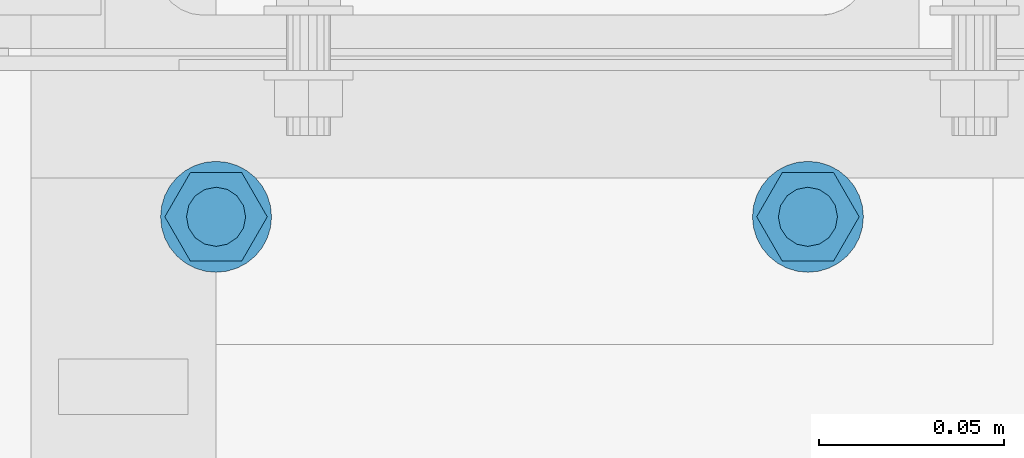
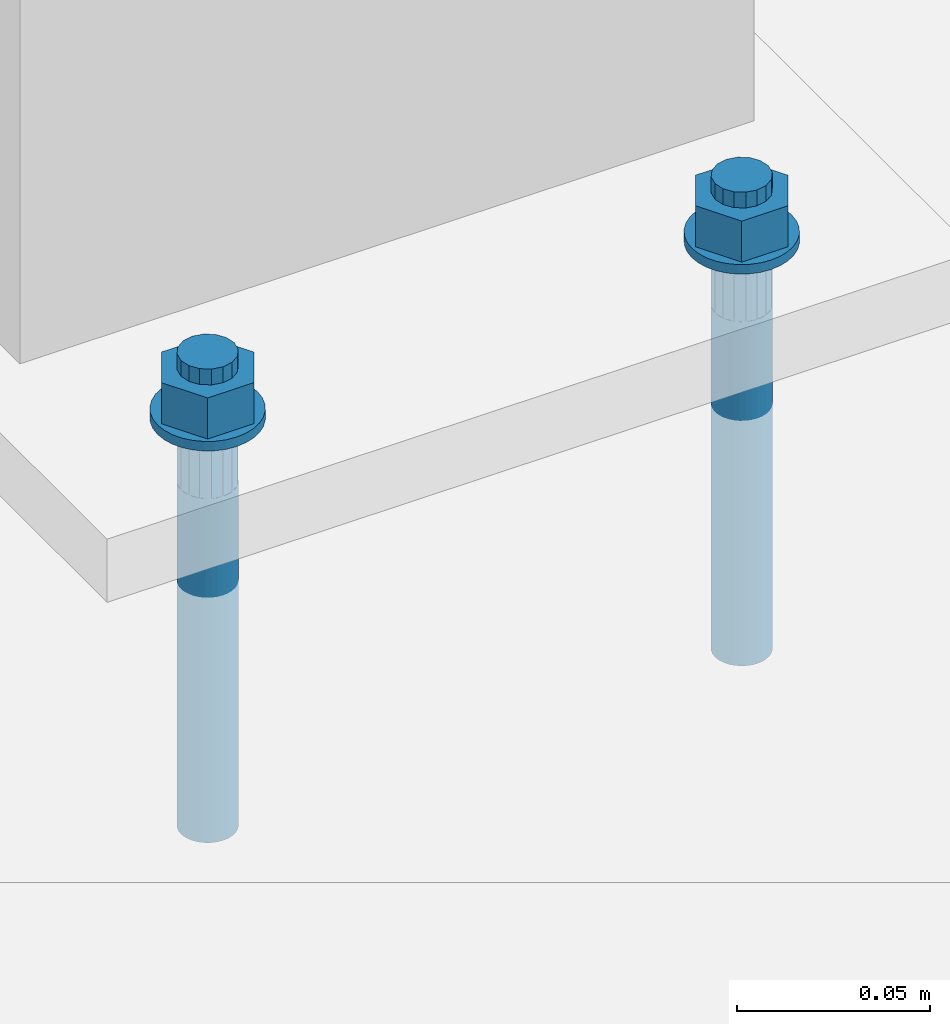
# One storey, part 122 of 410: 1 mechanical fastener.
"""IFC2X3 building model written with IfcOpenShell, lengths in millimetres."""

from ifc_helpers import new_model, entity, si_unit, converted_unit, origin_with_axes, place, context, project, spatial, faceted_brep, element, save


model = new_model("IFC2X3")

# Units and contexts
model_context = context("Model", 3, precision=1e-09, world=origin_with_axes())
ifc_project = project(units=[si_unit("LENGTHUNIT", "METRE", prefix="MILLI"), si_unit("AREAUNIT", "SQUARE_METRE"), si_unit("VOLUMEUNIT", "CUBIC_METRE"), converted_unit("PLANEANGLEUNIT", "DEGREE", entity("IfcPlaneAngleMeasure", 0.01745329), si_unit("PLANEANGLEUNIT", "RADIAN"), dimensions=[0, 0, 0, 0, 0, 0, 0])], contexts=[model_context])

# Site, building, storey
site_placement = place(None, origin_with_axes())
site = spatial("IfcSite", under=ifc_project, at=site_placement, Name="mKR Teilneubau & Sanierung BA1 - Ostfildern", CompositionType="ELEMENT")
building_placement = place(site_placement, origin_with_axes())
building = spatial("IfcBuilding", under=site, at=building_placement, Name="Struktur 1", CompositionType="ELEMENT")
storey_placement = place(building_placement, origin_with_axes())
storey = spatial("IfcBuildingStorey", under=building, at=storey_placement, Name="Default Storey", CompositionType="ELEMENT", Elevation=0.0)

# Mechanical fastener
mechanical_fastener_placement = place(None, origin_with_axes())
element("IfcMechanicalFastener", 1, at=mechanical_fastener_placement, inside=storey, ObjectType="Anchor_Bolt#1", NominalDiameter=16.0, NominalLength=150.0, context=model_context, shape_type="Brep", body=[
    faceted_brep([(-1535.0, 16689.499999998, -4737.0), (-1535.0, 16689.499999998, -4740.0), (-1537.92635483, 16689.211779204, -4740.0), (-1537.92635483, 16689.211779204, -4737.0), (-1540.740251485, 16688.358192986, -4740.0), (-1540.740251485, 16688.358192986, -4737.0), (-1543.333553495, 16686.972044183, -4740.0), (-1543.333553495, 16686.972044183, -4737.0), (-1545.606601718, 16685.106601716, -4740.0), (-1545.606601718, 16685.106601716, -4737.0), (-1547.472044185, 16682.833553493, -4740.0), (-1547.472044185, 16682.833553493, -4737.0), (-1548.858192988, 16680.240251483, -4740.0), (-1548.858192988, 16680.240251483, -4737.0), (-1549.711779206, 16677.426354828, -4740.0), (-1549.711779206, 16677.426354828, -4737.0), (-1550.0, 16674.499999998, -4740.0), (-1550.0, 16674.499999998, -4737.0), (-1549.711779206, 16671.573645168, -4740.0), (-1549.711779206, 16671.573645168, -4737.0), (-1548.858192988, 16668.759748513, -4740.0), (-1548.858192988, 16668.759748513, -4737.0), (-1547.472044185, 16666.166446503, -4740.0), (-1547.472044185, 16666.166446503, -4737.0), (-1545.606601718, 16663.89339828, -4740.0), (-1545.606601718, 16663.89339828, -4737.0), (-1543.333553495, 16662.027955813, -4740.0), (-1543.333553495, 16662.027955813, -4737.0), (-1540.740251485, 16660.64180701, -4740.0), (-1540.740251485, 16660.64180701, -4737.0), (-1537.92635483, 16659.788220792, -4740.0), (-1537.92635483, 16659.788220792, -4737.0), (-1535.0, 16659.499999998, -4740.0), (-1535.0, 16659.499999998, -4737.0), (-1532.07364517, 16659.788220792, -4740.0), (-1532.07364517, 16659.788220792, -4737.0), (-1529.259748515, 16660.64180701, -4740.0), (-1529.259748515, 16660.64180701, -4737.0), (-1526.666446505, 16662.027955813, -4740.0), (-1526.666446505, 16662.027955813, -4737.0), (-1524.393398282, 16663.89339828, -4740.0), (-1524.393398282, 16663.89339828, -4737.0), (-1522.527955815, 16666.166446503, -4740.0), (-1522.527955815, 16666.166446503, -4737.0), (-1521.141807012, 16668.759748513, -4740.0), (-1521.141807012, 16668.759748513, -4737.0), (-1520.288220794, 16671.573645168, -4740.0), (-1520.288220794, 16671.573645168, -4737.0), (-1520.0, 16674.499999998, -4740.0), (-1520.0, 16674.499999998, -4737.0), (-1520.288220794, 16677.426354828, -4740.0), (-1520.288220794, 16677.426354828, -4737.0), (-1521.141807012, 16680.240251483, -4740.0), (-1521.141807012, 16680.240251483, -4737.0), (-1522.527955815, 16682.833553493, -4740.0), (-1522.527955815, 16682.833553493, -4737.0), (-1524.393398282, 16685.106601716, -4740.0), (-1524.393398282, 16685.106601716, -4737.0), (-1526.666446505, 16686.972044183, -4740.0), (-1526.666446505, 16686.972044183, -4737.0), (-1529.259748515, 16688.358192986, -4740.0), (-1529.259748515, 16688.358192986, -4737.0), (-1532.07364517, 16689.211779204, -4740.0), (-1532.07364517, 16689.211779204, -4737.0)], [[[0, 1, 2, 3]], [[3, 2, 4, 5]], [[5, 4, 6, 7]], [[7, 6, 8, 9]], [[9, 8, 10, 11]], [[11, 10, 12, 13]], [[13, 12, 14, 15]], [[15, 14, 16, 17]], [[17, 16, 18, 19]], [[19, 18, 20, 21]], [[21, 20, 22, 23]], [[23, 22, 24, 25]], [[25, 24, 26, 27]], [[27, 26, 28, 29]], [[29, 28, 30, 31]], [[31, 30, 32, 33]], [[33, 32, 34, 35]], [[35, 34, 36, 37]], [[37, 36, 38, 39]], [[39, 38, 40, 41]], [[41, 40, 42, 43]], [[43, 42, 44, 45]], [[45, 44, 46, 47]], [[47, 46, 48, 49]], [[49, 48, 50, 51]], [[51, 50, 52, 53]], [[53, 52, 54, 55]], [[55, 54, 56, 57]], [[57, 56, 58, 59]], [[59, 58, 60, 61]], [[61, 60, 62, 63]], [[63, 62, 1, 0]], [[0, 3, 5, 7, 9, 11, 13, 15, 17, 19, 21, 23, 25, 27, 29, 31, 33, 35, 37, 39, 41, 43, 45, 47, 49, 51, 53, 55, 57, 59, 61, 63]], [[1, 62, 60, 58, 56, 54, 52, 50, 48, 46, 44, 42, 40, 38, 36, 34, 32, 30, 28, 26, 24, 22, 20, 18, 16, 14, 12, 10, 8, 6, 4, 2]]]),
    faceted_brep([(-1695.0, 16689.499999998, -4737.0), (-1695.0, 16689.499999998, -4740.0), (-1697.92635483, 16689.211779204, -4740.0), (-1697.92635483, 16689.211779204, -4737.0), (-1700.740251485, 16688.358192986, -4740.0), (-1700.740251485, 16688.358192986, -4737.0), (-1703.333553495, 16686.972044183, -4740.0), (-1703.333553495, 16686.972044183, -4737.0), (-1705.606601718, 16685.106601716, -4740.0), (-1705.606601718, 16685.106601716, -4737.0), (-1707.472044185, 16682.833553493, -4740.0), (-1707.472044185, 16682.833553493, -4737.0), (-1708.858192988, 16680.240251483, -4740.0), (-1708.858192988, 16680.240251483, -4737.0), (-1709.711779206, 16677.426354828, -4740.0), (-1709.711779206, 16677.426354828, -4737.0), (-1710.0, 16674.499999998, -4740.0), (-1710.0, 16674.499999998, -4737.0), (-1709.711779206, 16671.573645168, -4740.0), (-1709.711779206, 16671.573645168, -4737.0), (-1708.858192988, 16668.759748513, -4740.0), (-1708.858192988, 16668.759748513, -4737.0), (-1707.472044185, 16666.166446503, -4740.0), (-1707.472044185, 16666.166446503, -4737.0), (-1705.606601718, 16663.89339828, -4740.0), (-1705.606601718, 16663.89339828, -4737.0), (-1703.333553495, 16662.027955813, -4740.0), (-1703.333553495, 16662.027955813, -4737.0), (-1700.740251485, 16660.64180701, -4740.0), (-1700.740251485, 16660.64180701, -4737.0), (-1697.92635483, 16659.788220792, -4740.0), (-1697.92635483, 16659.788220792, -4737.0), (-1695.0, 16659.499999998, -4740.0), (-1695.0, 16659.499999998, -4737.0), (-1692.07364517, 16659.788220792, -4740.0), (-1692.07364517, 16659.788220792, -4737.0), (-1689.259748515, 16660.64180701, -4740.0), (-1689.259748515, 16660.64180701, -4737.0), (-1686.666446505, 16662.027955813, -4740.0), (-1686.666446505, 16662.027955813, -4737.0), (-1684.393398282, 16663.89339828, -4740.0), (-1684.393398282, 16663.89339828, -4737.0), (-1682.527955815, 16666.166446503, -4740.0), (-1682.527955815, 16666.166446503, -4737.0), (-1681.141807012, 16668.759748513, -4740.0), (-1681.141807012, 16668.759748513, -4737.0), (-1680.288220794, 16671.573645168, -4740.0), (-1680.288220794, 16671.573645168, -4737.0), (-1680.0, 16674.499999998, -4740.0), (-1680.0, 16674.499999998, -4737.0), (-1680.288220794, 16677.426354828, -4740.0), (-1680.288220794, 16677.426354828, -4737.0), (-1681.141807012, 16680.240251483, -4740.0), (-1681.141807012, 16680.240251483, -4737.0), (-1682.527955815, 16682.833553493, -4740.0), (-1682.527955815, 16682.833553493, -4737.0), (-1684.393398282, 16685.106601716, -4740.0), (-1684.393398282, 16685.106601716, -4737.0), (-1686.666446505, 16686.972044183, -4740.0), (-1686.666446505, 16686.972044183, -4737.0), (-1689.259748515, 16688.358192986, -4740.0), (-1689.259748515, 16688.358192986, -4737.0), (-1692.07364517, 16689.211779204, -4740.0), (-1692.07364517, 16689.211779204, -4737.0)], [[[0, 1, 2, 3]], [[3, 2, 4, 5]], [[5, 4, 6, 7]], [[7, 6, 8, 9]], [[9, 8, 10, 11]], [[11, 10, 12, 13]], [[13, 12, 14, 15]], [[15, 14, 16, 17]], [[17, 16, 18, 19]], [[19, 18, 20, 21]], [[21, 20, 22, 23]], [[23, 22, 24, 25]], [[25, 24, 26, 27]], [[27, 26, 28, 29]], [[29, 28, 30, 31]], [[31, 30, 32, 33]], [[33, 32, 34, 35]], [[35, 34, 36, 37]], [[37, 36, 38, 39]], [[39, 38, 40, 41]], [[41, 40, 42, 43]], [[43, 42, 44, 45]], [[45, 44, 46, 47]], [[47, 46, 48, 49]], [[49, 48, 50, 51]], [[51, 50, 52, 53]], [[53, 52, 54, 55]], [[55, 54, 56, 57]], [[57, 56, 58, 59]], [[59, 58, 60, 61]], [[61, 60, 62, 63]], [[63, 62, 1, 0]], [[0, 3, 5, 7, 9, 11, 13, 15, 17, 19, 21, 23, 25, 27, 29, 31, 33, 35, 37, 39, 41, 43, 45, 47, 49, 51, 53, 55, 57, 59, 61, 63]], [[1, 62, 60, 58, 56, 54, 52, 50, 48, 46, 44, 42, 40, 38, 36, 34, 32, 30, 28, 26, 24, 22, 20, 18, 16, 14, 12, 10, 8, 6, 4, 2]]]),
    faceted_brep([(-1541.925, 16662.505548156, -4737.0), (-1541.925, 16662.505548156, -4724.0), (-1548.85, 16674.499999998, -4724.0), (-1548.85, 16674.499999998, -4737.0), (-1541.925, 16686.49445184, -4724.0), (-1541.925, 16686.49445184, -4737.0), (-1528.075, 16686.49445184, -4724.0), (-1528.075, 16686.49445184, -4737.0), (-1521.15, 16674.499999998, -4724.0), (-1521.15, 16674.499999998, -4737.0), (-1528.075, 16662.505548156, -4724.0), (-1528.075, 16662.505548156, -4737.0)], [[[0, 1, 2, 3]], [[3, 2, 4, 5]], [[5, 4, 6, 7]], [[7, 6, 8, 9]], [[9, 8, 10, 11]], [[11, 10, 1, 0]], [[4, 2, 1, 10, 8, 6]], [[0, 3, 5, 7, 9, 11]]]),
    faceted_brep([(-1701.925, 16662.505548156, -4737.0), (-1701.925, 16662.505548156, -4724.0), (-1708.85, 16674.499999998, -4724.0), (-1708.85, 16674.499999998, -4737.0), (-1701.925, 16686.49445184, -4724.0), (-1701.925, 16686.49445184, -4737.0), (-1688.075, 16686.49445184, -4724.0), (-1688.075, 16686.49445184, -4737.0), (-1681.15, 16674.499999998, -4724.0), (-1681.15, 16674.499999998, -4737.0), (-1688.075, 16662.505548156, -4724.0), (-1688.075, 16662.505548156, -4737.0)], [[[0, 1, 2, 3]], [[3, 2, 4, 5]], [[5, 4, 6, 7]], [[7, 6, 8, 9]], [[9, 8, 10, 11]], [[11, 10, 1, 0]], [[4, 2, 1, 10, 8, 6]], [[0, 3, 5, 7, 9, 11]]]),
    faceted_brep([(-1535.0, 16682.499999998, -4719.0), (-1535.0, 16682.499999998, -4724.0), (-1538.061467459, 16681.891036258, -4724.0), (-1538.061467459, 16681.891036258, -4719.0), (-1540.656854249, 16680.156854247, -4724.0), (-1540.656854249, 16680.156854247, -4719.0), (-1542.39103626, 16677.561467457, -4724.0), (-1542.39103626, 16677.561467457, -4719.0), (-1543.0, 16674.499999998, -4724.0), (-1543.0, 16674.499999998, -4719.0), (-1542.39103626, 16671.438532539, -4724.0), (-1542.39103626, 16671.438532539, -4719.0), (-1540.656854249, 16668.843145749, -4724.0), (-1540.656854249, 16668.843145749, -4719.0), (-1538.061467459, 16667.108963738, -4724.0), (-1538.061467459, 16667.108963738, -4719.0), (-1535.0, 16666.499999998, -4724.0), (-1535.0, 16666.499999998, -4719.0), (-1531.938532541, 16667.108963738, -4724.0), (-1531.938532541, 16667.108963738, -4719.0), (-1529.343145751, 16668.843145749, -4724.0), (-1529.343145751, 16668.843145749, -4719.0), (-1527.60896374, 16671.438532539, -4724.0), (-1527.60896374, 16671.438532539, -4719.0), (-1527.0, 16674.499999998, -4724.0), (-1527.0, 16674.499999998, -4719.0), (-1527.60896374, 16677.561467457, -4724.0), (-1527.60896374, 16677.561467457, -4719.0), (-1529.343145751, 16680.156854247, -4724.0), (-1529.343145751, 16680.156854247, -4719.0), (-1531.938532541, 16681.891036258, -4724.0), (-1531.938532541, 16681.891036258, -4719.0)], [[[0, 1, 2, 3]], [[3, 2, 4, 5]], [[5, 4, 6, 7]], [[7, 6, 8, 9]], [[9, 8, 10, 11]], [[11, 10, 12, 13]], [[13, 12, 14, 15]], [[15, 14, 16, 17]], [[17, 16, 18, 19]], [[19, 18, 20, 21]], [[21, 20, 22, 23]], [[23, 22, 24, 25]], [[25, 24, 26, 27]], [[27, 26, 28, 29]], [[29, 28, 30, 31]], [[31, 30, 1, 0]], [[0, 3, 5, 7, 9, 11, 13, 15, 17, 19, 21, 23, 25, 27, 29, 31]], [[1, 30, 28, 26, 24, 22, 20, 18, 16, 14, 12, 10, 8, 6, 4, 2]]]),
    faceted_brep([(-1695.0, 16682.499999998, -4719.0), (-1695.0, 16682.499999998, -4724.0), (-1698.061467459, 16681.891036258, -4724.0), (-1698.061467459, 16681.891036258, -4719.0), (-1700.656854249, 16680.156854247, -4724.0), (-1700.656854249, 16680.156854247, -4719.0), (-1702.39103626, 16677.561467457, -4724.0), (-1702.39103626, 16677.561467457, -4719.0), (-1703.0, 16674.499999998, -4724.0), (-1703.0, 16674.499999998, -4719.0), (-1702.39103626, 16671.438532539, -4724.0), (-1702.39103626, 16671.438532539, -4719.0), (-1700.656854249, 16668.843145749, -4724.0), (-1700.656854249, 16668.843145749, -4719.0), (-1698.061467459, 16667.108963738, -4724.0), (-1698.061467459, 16667.108963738, -4719.0), (-1695.0, 16666.499999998, -4724.0), (-1695.0, 16666.499999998, -4719.0), (-1691.938532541, 16667.108963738, -4724.0), (-1691.938532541, 16667.108963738, -4719.0), (-1689.343145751, 16668.843145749, -4724.0), (-1689.343145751, 16668.843145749, -4719.0), (-1687.60896374, 16671.438532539, -4724.0), (-1687.60896374, 16671.438532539, -4719.0), (-1687.0, 16674.499999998, -4724.0), (-1687.0, 16674.499999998, -4719.0), (-1687.60896374, 16677.561467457, -4724.0), (-1687.60896374, 16677.561467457, -4719.0), (-1689.343145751, 16680.156854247, -4724.0), (-1689.343145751, 16680.156854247, -4719.0), (-1691.938532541, 16681.891036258, -4724.0), (-1691.938532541, 16681.891036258, -4719.0)], [[[0, 1, 2, 3]], [[3, 2, 4, 5]], [[5, 4, 6, 7]], [[7, 6, 8, 9]], [[9, 8, 10, 11]], [[11, 10, 12, 13]], [[13, 12, 14, 15]], [[15, 14, 16, 17]], [[17, 16, 18, 19]], [[19, 18, 20, 21]], [[21, 20, 22, 23]], [[23, 22, 24, 25]], [[25, 24, 26, 27]], [[27, 26, 28, 29]], [[29, 28, 30, 31]], [[31, 30, 1, 0]], [[0, 3, 5, 7, 9, 11, 13, 15, 17, 19, 21, 23, 25, 27, 29, 31]], [[1, 30, 28, 26, 24, 22, 20, 18, 16, 14, 12, 10, 8, 6, 4, 2]]]),
    faceted_brep([(-1535.0, 16682.499999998, -4740.000324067), (-1535.0, 16682.499999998, -4760.0), (-1538.061467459, 16681.891036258, -4760.0), (-1538.061467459, 16681.891036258, -4740.000324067), (-1540.656854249, 16680.156854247, -4760.0), (-1540.656854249, 16680.156854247, -4740.000324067), (-1542.39103626, 16677.561467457, -4760.0), (-1542.39103626, 16677.561467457, -4740.000324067), (-1543.0, 16674.499999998, -4760.0), (-1543.0, 16674.499999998, -4740.000324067), (-1542.39103626, 16671.438532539, -4760.0), (-1542.39103626, 16671.438532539, -4740.000324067), (-1540.656854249, 16668.843145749, -4760.0), (-1540.656854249, 16668.843145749, -4740.000324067), (-1538.061467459, 16667.108963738, -4760.0), (-1538.061467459, 16667.108963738, -4740.000324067), (-1535.0, 16666.499999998, -4760.0), (-1535.0, 16666.499999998, -4740.000324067), (-1531.938532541, 16667.108963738, -4760.0), (-1531.938532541, 16667.108963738, -4740.000324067), (-1529.343145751, 16668.843145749, -4760.0), (-1529.343145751, 16668.843145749, -4740.000324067), (-1527.60896374, 16671.438532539, -4760.0), (-1527.60896374, 16671.438532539, -4740.000324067), (-1527.0, 16674.499999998, -4760.0), (-1527.0, 16674.499999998, -4740.000324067), (-1527.60896374, 16677.561467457, -4760.0), (-1527.60896374, 16677.561467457, -4740.000324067), (-1529.343145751, 16680.156854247, -4760.0), (-1529.343145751, 16680.156854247, -4740.000324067), (-1531.938532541, 16681.891036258, -4760.0), (-1531.938532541, 16681.891036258, -4740.000324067)], [[[0, 1, 2, 3]], [[3, 2, 4, 5]], [[5, 4, 6, 7]], [[7, 6, 8, 9]], [[9, 8, 10, 11]], [[11, 10, 12, 13]], [[13, 12, 14, 15]], [[15, 14, 16, 17]], [[17, 16, 18, 19]], [[19, 18, 20, 21]], [[21, 20, 22, 23]], [[23, 22, 24, 25]], [[25, 24, 26, 27]], [[27, 26, 28, 29]], [[29, 28, 30, 31]], [[31, 30, 1, 0]], [[0, 3, 5, 7, 9, 11, 13, 15, 17, 19, 21, 23, 25, 27, 29, 31]], [[1, 30, 28, 26, 24, 22, 20, 18, 16, 14, 12, 10, 8, 6, 4, 2]]]),
    faceted_brep([(-1695.0, 16682.499999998, -4740.000324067), (-1695.0, 16682.499999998, -4760.0), (-1698.061467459, 16681.891036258, -4760.0), (-1698.061467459, 16681.891036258, -4740.000324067), (-1700.656854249, 16680.156854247, -4760.0), (-1700.656854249, 16680.156854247, -4740.000324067), (-1702.39103626, 16677.561467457, -4760.0), (-1702.39103626, 16677.561467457, -4740.000324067), (-1703.0, 16674.499999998, -4760.0), (-1703.0, 16674.499999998, -4740.000324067), (-1702.39103626, 16671.438532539, -4760.0), (-1702.39103626, 16671.438532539, -4740.000324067), (-1700.656854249, 16668.843145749, -4760.0), (-1700.656854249, 16668.843145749, -4740.000324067), (-1698.061467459, 16667.108963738, -4760.0), (-1698.061467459, 16667.108963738, -4740.000324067), (-1695.0, 16666.499999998, -4760.0), (-1695.0, 16666.499999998, -4740.000324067), (-1691.938532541, 16667.108963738, -4760.0), (-1691.938532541, 16667.108963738, -4740.000324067), (-1689.343145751, 16668.843145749, -4760.0), (-1689.343145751, 16668.843145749, -4740.000324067), (-1687.60896374, 16671.438532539, -4760.0), (-1687.60896374, 16671.438532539, -4740.000324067), (-1687.0, 16674.499999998, -4760.0), (-1687.0, 16674.499999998, -4740.000324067), (-1687.60896374, 16677.561467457, -4760.0), (-1687.60896374, 16677.561467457, -4740.000324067), (-1689.343145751, 16680.156854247, -4760.0), (-1689.343145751, 16680.156854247, -4740.000324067), (-1691.938532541, 16681.891036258, -4760.0), (-1691.938532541, 16681.891036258, -4740.000324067)], [[[0, 1, 2, 3]], [[3, 2, 4, 5]], [[5, 4, 6, 7]], [[7, 6, 8, 9]], [[9, 8, 10, 11]], [[11, 10, 12, 13]], [[13, 12, 14, 15]], [[15, 14, 16, 17]], [[17, 16, 18, 19]], [[19, 18, 20, 21]], [[21, 20, 22, 23]], [[23, 22, 24, 25]], [[25, 24, 26, 27]], [[27, 26, 28, 29]], [[29, 28, 30, 31]], [[31, 30, 1, 0]], [[0, 3, 5, 7, 9, 11, 13, 15, 17, 19, 21, 23, 25, 27, 29, 31]], [[1, 30, 28, 26, 24, 22, 20, 18, 16, 14, 12, 10, 8, 6, 4, 2]]]),
    faceted_brep([(-1535.0, 16682.499999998, -4760.0), (-1535.0, 16682.499999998, -4869.0), (-1536.560722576, 16682.346282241, -4869.0), (-1536.560722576, 16682.346282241, -4760.0), (-1538.061467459, 16681.891036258, -4869.0), (-1538.061467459, 16681.891036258, -4760.0), (-1539.444561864, 16681.151756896, -4869.0), (-1539.444561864, 16681.151756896, -4760.0), (-1540.656854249, 16680.156854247, -4869.0), (-1540.656854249, 16680.156854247, -4760.0), (-1541.651756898, 16678.944561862, -4869.0), (-1541.651756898, 16678.944561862, -4760.0), (-1542.39103626, 16677.561467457, -4869.0), (-1542.39103626, 16677.561467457, -4760.0), (-1542.846282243, 16676.060722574, -4869.0), (-1542.846282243, 16676.060722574, -4760.0), (-1543.0, 16674.499999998, -4869.0), (-1543.0, 16674.499999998, -4760.0), (-1542.846282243, 16672.939277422, -4869.0), (-1542.846282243, 16672.939277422, -4760.0), (-1542.39103626, 16671.438532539, -4869.0), (-1542.39103626, 16671.438532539, -4760.0), (-1541.651756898, 16670.055438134, -4869.0), (-1541.651756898, 16670.055438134, -4760.0), (-1540.656854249, 16668.843145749, -4869.0), (-1540.656854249, 16668.843145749, -4760.0), (-1539.444561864, 16667.8482431, -4869.0), (-1539.444561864, 16667.8482431, -4760.0), (-1538.061467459, 16667.108963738, -4869.0), (-1538.061467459, 16667.108963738, -4760.0), (-1536.560722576, 16666.653717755, -4869.0), (-1536.560722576, 16666.653717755, -4760.0), (-1535.0, 16666.499999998, -4869.0), (-1535.0, 16666.499999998, -4760.0), (-1533.439277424, 16666.653717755, -4869.0), (-1533.439277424, 16666.653717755, -4760.0), (-1531.938532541, 16667.108963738, -4869.0), (-1531.938532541, 16667.108963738, -4760.0), (-1530.555438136, 16667.8482431, -4869.0), (-1530.555438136, 16667.8482431, -4760.0), (-1529.343145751, 16668.843145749, -4869.0), (-1529.343145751, 16668.843145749, -4760.0), (-1528.348243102, 16670.055438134, -4869.0), (-1528.348243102, 16670.055438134, -4760.0), (-1527.60896374, 16671.438532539, -4869.0), (-1527.60896374, 16671.438532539, -4760.0), (-1527.153717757, 16672.939277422, -4869.0), (-1527.153717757, 16672.939277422, -4760.0), (-1527.0, 16674.499999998, -4869.0), (-1527.0, 16674.499999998, -4760.0), (-1527.153717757, 16676.060722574, -4869.0), (-1527.153717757, 16676.060722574, -4760.0), (-1527.60896374, 16677.561467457, -4869.0), (-1527.60896374, 16677.561467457, -4760.0), (-1528.348243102, 16678.944561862, -4869.0), (-1528.348243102, 16678.944561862, -4760.0), (-1529.343145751, 16680.156854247, -4869.0), (-1529.343145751, 16680.156854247, -4760.0), (-1530.555438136, 16681.151756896, -4869.0), (-1530.555438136, 16681.151756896, -4760.0), (-1531.938532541, 16681.891036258, -4869.0), (-1531.938532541, 16681.891036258, -4760.0), (-1533.439277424, 16682.346282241, -4869.0), (-1533.439277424, 16682.346282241, -4760.0)], [[[0, 1, 2, 3]], [[3, 2, 4, 5]], [[5, 4, 6, 7]], [[7, 6, 8, 9]], [[9, 8, 10, 11]], [[11, 10, 12, 13]], [[13, 12, 14, 15]], [[15, 14, 16, 17]], [[17, 16, 18, 19]], [[19, 18, 20, 21]], [[21, 20, 22, 23]], [[23, 22, 24, 25]], [[25, 24, 26, 27]], [[27, 26, 28, 29]], [[29, 28, 30, 31]], [[31, 30, 32, 33]], [[33, 32, 34, 35]], [[35, 34, 36, 37]], [[37, 36, 38, 39]], [[39, 38, 40, 41]], [[41, 40, 42, 43]], [[43, 42, 44, 45]], [[45, 44, 46, 47]], [[47, 46, 48, 49]], [[49, 48, 50, 51]], [[51, 50, 52, 53]], [[53, 52, 54, 55]], [[55, 54, 56, 57]], [[57, 56, 58, 59]], [[59, 58, 60, 61]], [[61, 60, 62, 63]], [[63, 62, 1, 0]], [[0, 3, 5, 7, 9, 11, 13, 15, 17, 19, 21, 23, 25, 27, 29, 31, 33, 35, 37, 39, 41, 43, 45, 47, 49, 51, 53, 55, 57, 59, 61, 63]], [[1, 62, 60, 58, 56, 54, 52, 50, 48, 46, 44, 42, 40, 38, 36, 34, 32, 30, 28, 26, 24, 22, 20, 18, 16, 14, 12, 10, 8, 6, 4, 2]]]),
    faceted_brep([(-1695.0, 16682.499999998, -4760.0), (-1695.0, 16682.499999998, -4869.0), (-1696.560722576, 16682.346282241, -4869.0), (-1696.560722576, 16682.346282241, -4760.0), (-1698.061467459, 16681.891036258, -4869.0), (-1698.061467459, 16681.891036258, -4760.0), (-1699.444561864, 16681.151756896, -4869.0), (-1699.444561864, 16681.151756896, -4760.0), (-1700.656854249, 16680.156854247, -4869.0), (-1700.656854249, 16680.156854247, -4760.0), (-1701.651756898, 16678.944561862, -4869.0), (-1701.651756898, 16678.944561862, -4760.0), (-1702.39103626, 16677.561467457, -4869.0), (-1702.39103626, 16677.561467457, -4760.0), (-1702.846282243, 16676.060722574, -4869.0), (-1702.846282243, 16676.060722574, -4760.0), (-1703.0, 16674.499999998, -4869.0), (-1703.0, 16674.499999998, -4760.0), (-1702.846282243, 16672.939277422, -4869.0), (-1702.846282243, 16672.939277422, -4760.0), (-1702.39103626, 16671.438532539, -4869.0), (-1702.39103626, 16671.438532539, -4760.0), (-1701.651756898, 16670.055438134, -4869.0), (-1701.651756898, 16670.055438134, -4760.0), (-1700.656854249, 16668.843145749, -4869.0), (-1700.656854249, 16668.843145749, -4760.0), (-1699.444561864, 16667.8482431, -4869.0), (-1699.444561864, 16667.8482431, -4760.0), (-1698.061467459, 16667.108963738, -4869.0), (-1698.061467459, 16667.108963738, -4760.0), (-1696.560722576, 16666.653717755, -4869.0), (-1696.560722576, 16666.653717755, -4760.0), (-1695.0, 16666.499999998, -4869.0), (-1695.0, 16666.499999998, -4760.0), (-1693.439277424, 16666.653717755, -4869.0), (-1693.439277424, 16666.653717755, -4760.0), (-1691.938532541, 16667.108963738, -4869.0), (-1691.938532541, 16667.108963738, -4760.0), (-1690.555438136, 16667.8482431, -4869.0), (-1690.555438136, 16667.8482431, -4760.0), (-1689.343145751, 16668.843145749, -4869.0), (-1689.343145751, 16668.843145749, -4760.0), (-1688.348243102, 16670.055438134, -4869.0), (-1688.348243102, 16670.055438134, -4760.0), (-1687.60896374, 16671.438532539, -4869.0), (-1687.60896374, 16671.438532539, -4760.0), (-1687.153717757, 16672.939277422, -4869.0), (-1687.153717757, 16672.939277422, -4760.0), (-1687.0, 16674.499999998, -4869.0), (-1687.0, 16674.499999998, -4760.0), (-1687.153717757, 16676.060722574, -4869.0), (-1687.153717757, 16676.060722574, -4760.0), (-1687.60896374, 16677.561467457, -4869.0), (-1687.60896374, 16677.561467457, -4760.0), (-1688.348243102, 16678.944561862, -4869.0), (-1688.348243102, 16678.944561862, -4760.0), (-1689.343145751, 16680.156854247, -4869.0), (-1689.343145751, 16680.156854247, -4760.0), (-1690.555438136, 16681.151756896, -4869.0), (-1690.555438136, 16681.151756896, -4760.0), (-1691.938532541, 16681.891036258, -4869.0), (-1691.938532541, 16681.891036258, -4760.0), (-1693.439277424, 16682.346282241, -4869.0), (-1693.439277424, 16682.346282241, -4760.0)], [[[0, 1, 2, 3]], [[3, 2, 4, 5]], [[5, 4, 6, 7]], [[7, 6, 8, 9]], [[9, 8, 10, 11]], [[11, 10, 12, 13]], [[13, 12, 14, 15]], [[15, 14, 16, 17]], [[17, 16, 18, 19]], [[19, 18, 20, 21]], [[21, 20, 22, 23]], [[23, 22, 24, 25]], [[25, 24, 26, 27]], [[27, 26, 28, 29]], [[29, 28, 30, 31]], [[31, 30, 32, 33]], [[33, 32, 34, 35]], [[35, 34, 36, 37]], [[37, 36, 38, 39]], [[39, 38, 40, 41]], [[41, 40, 42, 43]], [[43, 42, 44, 45]], [[45, 44, 46, 47]], [[47, 46, 48, 49]], [[49, 48, 50, 51]], [[51, 50, 52, 53]], [[53, 52, 54, 55]], [[55, 54, 56, 57]], [[57, 56, 58, 59]], [[59, 58, 60, 61]], [[61, 60, 62, 63]], [[63, 62, 1, 0]], [[0, 3, 5, 7, 9, 11, 13, 15, 17, 19, 21, 23, 25, 27, 29, 31, 33, 35, 37, 39, 41, 43, 45, 47, 49, 51, 53, 55, 57, 59, 61, 63]], [[1, 62, 60, 58, 56, 54, 52, 50, 48, 46, 44, 42, 40, 38, 36, 34, 32, 30, 28, 26, 24, 22, 20, 18, 16, 14, 12, 10, 8, 6, 4, 2]]]),
])

save(model, "model.ifc")
